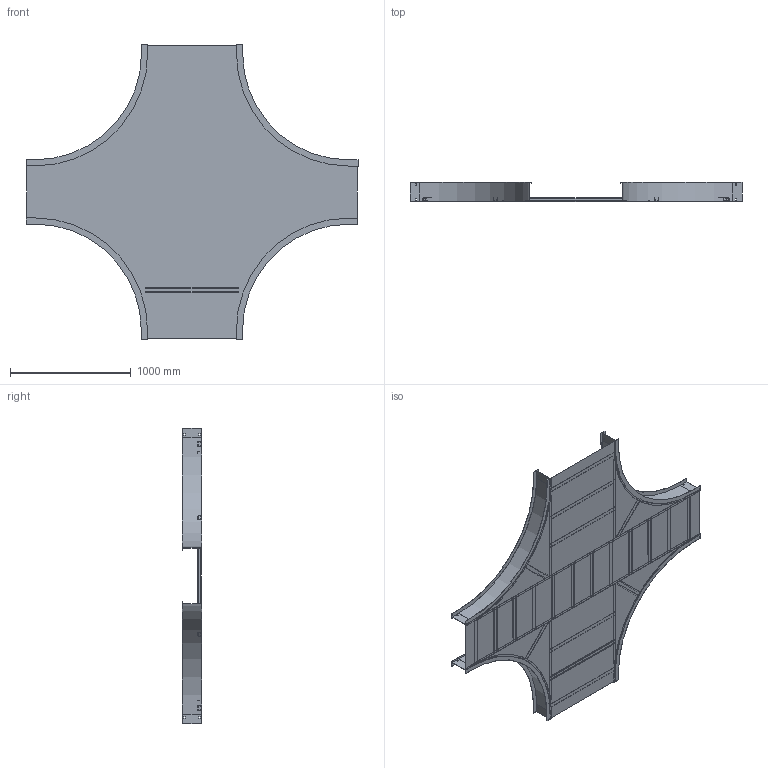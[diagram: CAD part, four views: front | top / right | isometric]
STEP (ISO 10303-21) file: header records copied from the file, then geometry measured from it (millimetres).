
FILE_DESCRIPTION((''),'2;1');
FILE_NAME('AHF61830SEX36_ASM','2010-02-01T',('erouzier'),(''),'PRO/ENGINEER BY PARAMETRIC TECHNOLOGY CORPORATION, 2008510','PRO/ENGINEER BY PARAMETRIC TECHNOLOGY CORPORATION, 2008510','');
FILE_SCHEMA(('CONFIG_CONTROL_DESIGN'));
Length unit declared in the file: inch
Products named in the file (26): CDS001812-6-90-36-I; CDS002159L18_AF20; CDS002159L18_AF21; CDS002159L18_AF22; CDS002159L18_AF23; CDS002159L18_AF29; CDS002159L18_AF31; CDS002159L18_AF24; CDS002159L18_AF25; CDS002159L18_AF26; CDS002159L18_AF28; CDS002159L18_AF30; CDS002159L18_AF27; CDS000495_GEN_AF18; CDS000495_GEN_AF19; CDS000495_GEN_AF22; CDS000495_GEN_AF23; CDS000495_GEN_AF20; CDS000495_GEN_AF21; CDS002159L18_AF18; CDS002159L18_AF19; CDS002159L18_AF16; CDS002159L18_AF17; CDS002159L30; CDS014308-18-36-30; AHF61830SEX36_ASM
Assembly tree (33 placements, depth 2):
  AHF61830SEX36_ASM
    CDS001812-6-90-36-I  x4
    CDS002159L18_AF20
    CDS002159L18_AF21
    CDS002159L18_AF22
    CDS002159L18_AF23
    CDS002159L18_AF29
    CDS002159L18_AF31
    CDS002159L18_AF24
    CDS002159L18_AF25
    CDS002159L18_AF26
    CDS002159L18_AF28
    CDS002159L18_AF30
    CDS002159L18_AF27
    CDS000495_GEN_AF18
    CDS000495_GEN_AF19
    CDS000495_GEN_AF22
    CDS000495_GEN_AF23
    CDS000495_GEN_AF20
    CDS000495_GEN_AF21
    CDS002159L18_AF18
    CDS002159L18_AF19
    CDS002159L18_AF16
    CDS002159L18_AF17
    CDS002159L30  x6
    CDS014308-18-36-30
Bounding box: 2748.28 x 157.99 x 2443.48 mm (x, y, z)
Volume: 10573920.8 mm3; surface area: 14042524.5 mm2
Topology: 33 solids, 33 shells, 906 faces, 2520 edges, 1680 vertices
Faces by surface type: plane 636, cylinder 270
Entity records: 20941 total; most frequent: CARTESIAN_POINT 3933, ORIENTED_EDGE 3480, DIRECTION 3424, EDGE_CURVE 1740, VECTOR 1346, LINE 1346, VERTEX_POINT 1160, AXIS2_PLACEMENT_3D 1039
